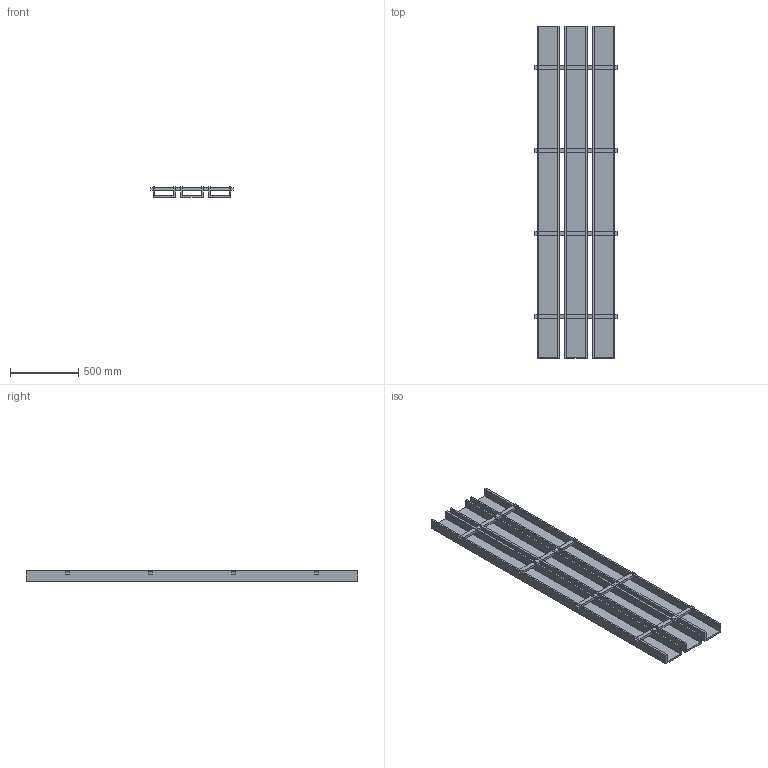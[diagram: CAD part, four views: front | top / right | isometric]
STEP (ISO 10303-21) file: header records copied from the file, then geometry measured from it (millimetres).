
FILE_DESCRIPTION(/* description */ (''),/* implementation_level */ '2;1');
FILE_NAME(/* name */ 'PET GRILLA_6.5x3_8ft',/* time_stamp */ '2024-10-15T14:22:43-05:00',/* author */ (''),/* organization */ (''),/* preprocessor_version */ 'ST-DEVELOPER v19.2',/* originating_system */ 'Rhino 8.4',/* authorisation */ '');
FILE_SCHEMA (('CONFIG_CONTROL_DESIGN'));
Length unit declared in the file: inch
Products named in the file (1): Document
Bounding box: 603.25 x 2438.4 x 76.2 mm (x, y, z)
Volume: 28412096.4 mm3; surface area: 4671603.6 mm2
Topology: 1 solids, 1 shells, 150 faces, 408 edges, 272 vertices
Faces by surface type: plane 150
Entity records: 4234 total; most frequent: CARTESIAN_POINT 1240, ORIENTED_EDGE 816, EDGE_CURVE 408, B_SPLINE_CURVE_WITH_KNOTS 408, VERTEX_POINT 272, EDGE_LOOP 198, DIRECTION 154, AXIS2_PLACEMENT_3D 152
